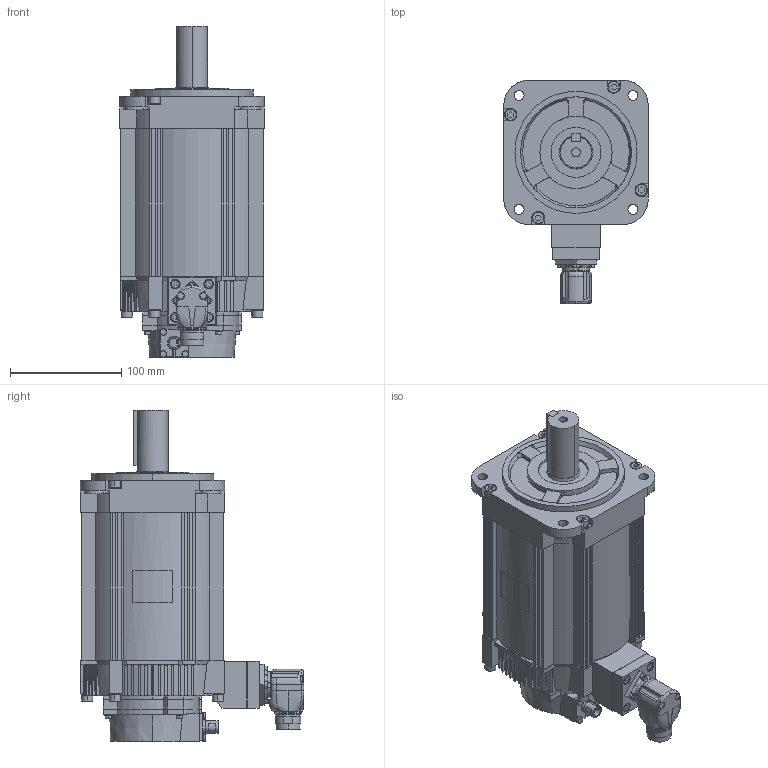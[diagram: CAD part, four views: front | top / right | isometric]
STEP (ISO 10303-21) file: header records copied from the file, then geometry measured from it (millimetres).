
FILE_DESCRIPTION (( 'STEP AP214' ), '1' );
FILE_NAME ('sgm7a_40d_f6f.STEP', '2016-08-04T00:52:49', ( '匠エンジニアリング山之内' ), ( 'TAKUMI-Engniaring' ), 'SwSTEP 2.0', 'SolidWorks 2006303', '' );
FILE_SCHEMA (( 'AUTOMOTIVE_DESIGN' ));
Length unit declared in the file: millimetre
Products named in the file (4): sgm7a_40d_f6f; sgm7a_40d_f6f_connector; sgm7a_40d_f6f_key_蹬怮椔; sgm7a_40d_f6f_base_蹬怮椔
Assembly tree (3 placements, depth 2):
  sgm7a_40d_f6f
    sgm7a_40d_f6f_key_蹬怮椔
    sgm7a_40d_f6f_base_蹬怮椔
    sgm7a_40d_f6f_connector
Bounding box: 130 x 201 x 298.1 mm (x, y, z)
Volume: 3042110.2 mm3; surface area: 208204.6 mm2
Topology: 3 solids, 3 shells, 980 faces, 2572 edges, 1682 vertices
Faces by surface type: plane 649, cylinder 278, bspline 24, cone 20, torus 9
Entity records: 42665 total; most frequent: CARTESIAN_POINT 7362, ORIENTED_EDGE 5140, DIRECTION 5048, EDGE_CURVE 2570, AXIS2_PLACEMENT_3D 1724, VERTEX_POINT 1682, VECTOR 1600, LINE 1600
